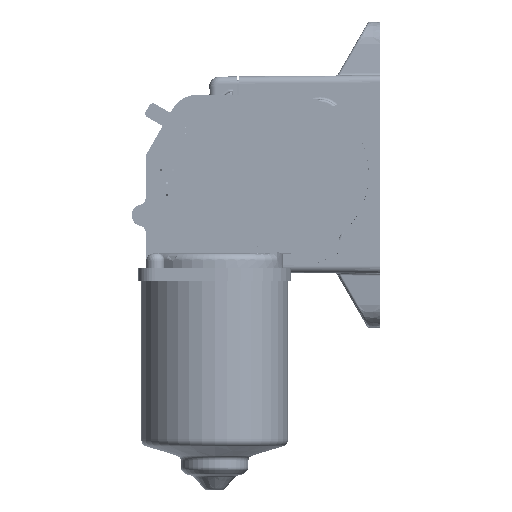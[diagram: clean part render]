
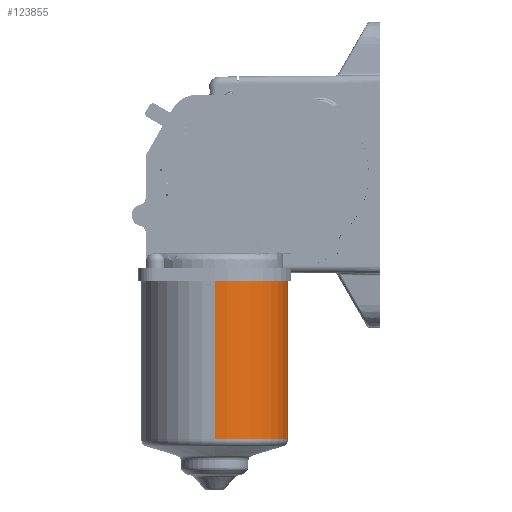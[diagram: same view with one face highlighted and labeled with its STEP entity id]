
A CAD part, top view. The second image highlights one B-rep face of the part: STEP entity #123855.
In plain terms, the highlighted cylindrical face has radius 30.3 mm (diameter 60.6 mm), a partial arc.
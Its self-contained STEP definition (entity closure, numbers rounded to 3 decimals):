
#1610 = CARTESIAN_POINT ( 'NONE',  ( -23.859, 3.635, 68.845 ) ) ;
#4033 = CARTESIAN_POINT ( 'NONE',  ( -23.859, 3.635, 38.545 ) ) ;
#4582 = CARTESIAN_POINT ( 'NONE',  ( -23.859, 3.635, 8.245 ) ) ;
#16876 = DIRECTION ( 'NONE',  ( 0., 0., 1. ) ) ;
#20474 = VECTOR ( 'NONE', #157392, 1000. ) ;
#24596 = EDGE_CURVE ( 'NONE', #59135, #93697, #97632, .T. ) ;
#24899 = CARTESIAN_POINT ( 'NONE',  ( -23.859, 3.635, 38.545 ) ) ;
#27556 = ORIENTED_EDGE ( 'NONE', *, *, #24596, .F. ) ;
#37710 = CARTESIAN_POINT ( 'NONE',  ( -23.859, -61.947, 68.845 ) ) ;
#41964 = VERTEX_POINT ( 'NONE', #85366 ) ;
#42855 = EDGE_LOOP ( 'NONE', ( #114529, #142387, #27556, #94246 ) ) ;
#46272 = DIRECTION ( 'NONE',  ( 0., 1., 0. ) ) ;
#47528 = DIRECTION ( 'NONE',  ( 0., 1., 0. ) ) ;
#48747 = EDGE_CURVE ( 'NONE', #138721, #59135, #125831, .T. ) ;
#49380 = LINE ( 'NONE', #122312, #116991 ) ;
#59135 = VERTEX_POINT ( 'NONE', #1610 ) ;
#81571 = EDGE_CURVE ( 'NONE', #41964, #93697, #49380, .T. ) ;
#85366 = CARTESIAN_POINT ( 'NONE',  ( -23.859, -61.947, 8.245 ) ) ;
#88795 = DIRECTION ( 'NONE',  ( 0., 0., 1. ) ) ;
#90830 = AXIS2_PLACEMENT_3D ( 'NONE', #123544, #47528, #136354 ) ;
#92944 = DIRECTION ( 'NONE',  ( 0., 1., 0. ) ) ;
#93697 = VERTEX_POINT ( 'NONE', #4582 ) ;
#94246 = ORIENTED_EDGE ( 'NONE', *, *, #48747, .F. ) ;
#97632 = CIRCLE ( 'NONE', #112254, 30.3 ) ;
#112254 = AXIS2_PLACEMENT_3D ( 'NONE', #4033, #92944, #16876 ) ;
#114040 = AXIS2_PLACEMENT_3D ( 'NONE', #24899, #165000, #88795 ) ;
#114529 = ORIENTED_EDGE ( 'NONE', *, *, #158661, .T. ) ;
#116991 = VECTOR ( 'NONE', #46272, 1000. ) ;
#121168 = CIRCLE ( 'NONE', #90830, 30.3 ) ;
#122312 = CARTESIAN_POINT ( 'NONE',  ( -23.859, 3.635, 8.245 ) ) ;
#123544 = CARTESIAN_POINT ( 'NONE',  ( -23.859, -61.947, 38.545 ) ) ;
#123855 = ADVANCED_FACE ( 'NONE', ( #144016 ), #135981, .T. ) ;
#125831 = LINE ( 'NONE', #131758, #20474 ) ;
#131758 = CARTESIAN_POINT ( 'NONE',  ( -23.859, 3.635, 68.845 ) ) ;
#135981 = CYLINDRICAL_SURFACE ( 'NONE', #114040, 30.3 ) ;
#136354 = DIRECTION ( 'NONE',  ( 0., 0., -1. ) ) ;
#138721 = VERTEX_POINT ( 'NONE', #37710 ) ;
#142387 = ORIENTED_EDGE ( 'NONE', *, *, #81571, .T. ) ;
#144016 = FACE_OUTER_BOUND ( 'NONE', #42855, .T. ) ;
#157392 = DIRECTION ( 'NONE',  ( 0., 1., 0. ) ) ;
#158661 = EDGE_CURVE ( 'NONE', #138721, #41964, #121168, .T. ) ;
#165000 = DIRECTION ( 'NONE',  ( 0., 1., 0. ) ) ;
